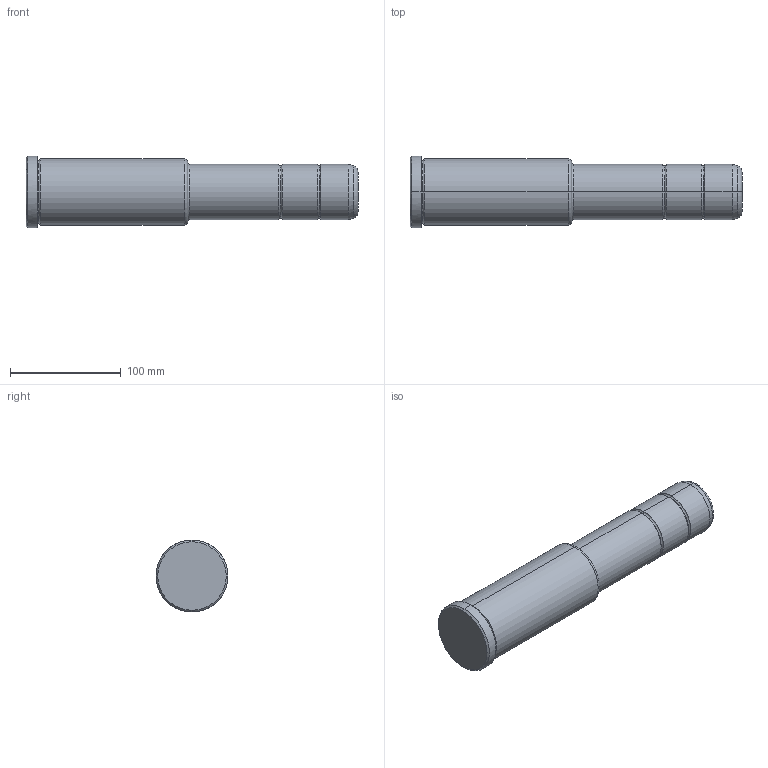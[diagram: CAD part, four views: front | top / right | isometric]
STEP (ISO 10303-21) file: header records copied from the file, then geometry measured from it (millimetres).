
FILE_DESCRIPTION(('CATIA V5 STEP Exchange'),'2;1');
FILE_NAME('C:\Users\Utente\Desktop\IO LAVORO\3D X SITO CF\X SITO\PLASTICA\351\351-50X146X300.stp','2021-11-03T19:20:37+00:00',('none'),('none'),'CATIA Version 5 Release 20 GA (IN-10)','CATIA V5 STEP AP203','none');
FILE_SCHEMA(('CONFIG_CONTROL_DESIGN'));
Length unit declared in the file: millimetre
Products named in the file (1): 351-50X146X300
Bounding box: 300 x 65 x 65 mm (x, y, z)
Volume: 715705.9 mm3; surface area: 58134.5 mm2
Topology: 1 solids, 1 shells, 35 faces, 98 edges, 66 vertices
Faces by surface type: torus 18, cylinder 10, cone 4, plane 3
Entity records: 1198 total; most frequent: CARTESIAN_POINT 256, ORIENTED_EDGE 196, DIRECTION 164, AXIS2_PLACEMENT_3D 116, EDGE_CURVE 98, CIRCLE 80, VERTEX_POINT 66, EDGE_LOOP 36
